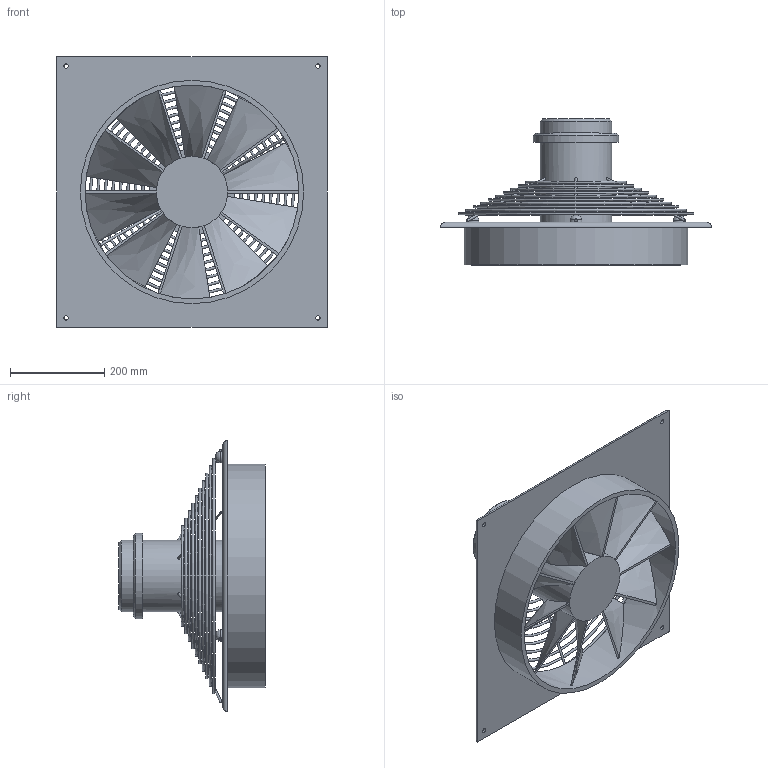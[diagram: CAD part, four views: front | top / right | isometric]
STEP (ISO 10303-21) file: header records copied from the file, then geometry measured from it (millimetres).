
FILE_DESCRIPTION(/* description */ (''),/* implementation_level */ '2;1');
FILE_NAME(/* name */ 'Z:\Output\HQD 450-6-00993-020.stp',/* time_stamp */ '2017-05-04T17:51:45+02:00',/* author */ ('pareshmistry'),/* organization */ (''),/* preprocessor_version */ 'ST-DEVELOPER v16.5',/* originating_system */ 'Autodesk Inventor 2017',/* authorisation */ '');
FILE_SCHEMA (('AUTOMOTIVE_DESIGN { 1 0 10303 214 3 1 1 }'));
Length unit declared in the file: millimetre
Products named in the file (1): HQW EC 450
Bounding box: 575 x 310 x 575 mm (x, y, z)
Volume: 9085550.7 mm3; surface area: 1316924.1 mm2
Topology: 11 solids, 11 shells, 113 faces, 310 edges, 197 vertices
Faces by surface type: bspline 43, plane 32, cylinder 26, torus 10, cone 2
Full cylindrical faces by diameter (mm): 5 x9, 9 x4, 25 x3, 151.333 x2, 182.55 x1, 454 x1, 474 x1
Entity records: 4256 total; most frequent: CARTESIAN_POINT 1896, ORIENTED_EDGE 514, DIRECTION 398, EDGE_CURVE 247, VERTEX_POINT 168, AXIS2_PLACEMENT_3D 155, EDGE_LOOP 147, ADVANCED_FACE 112
